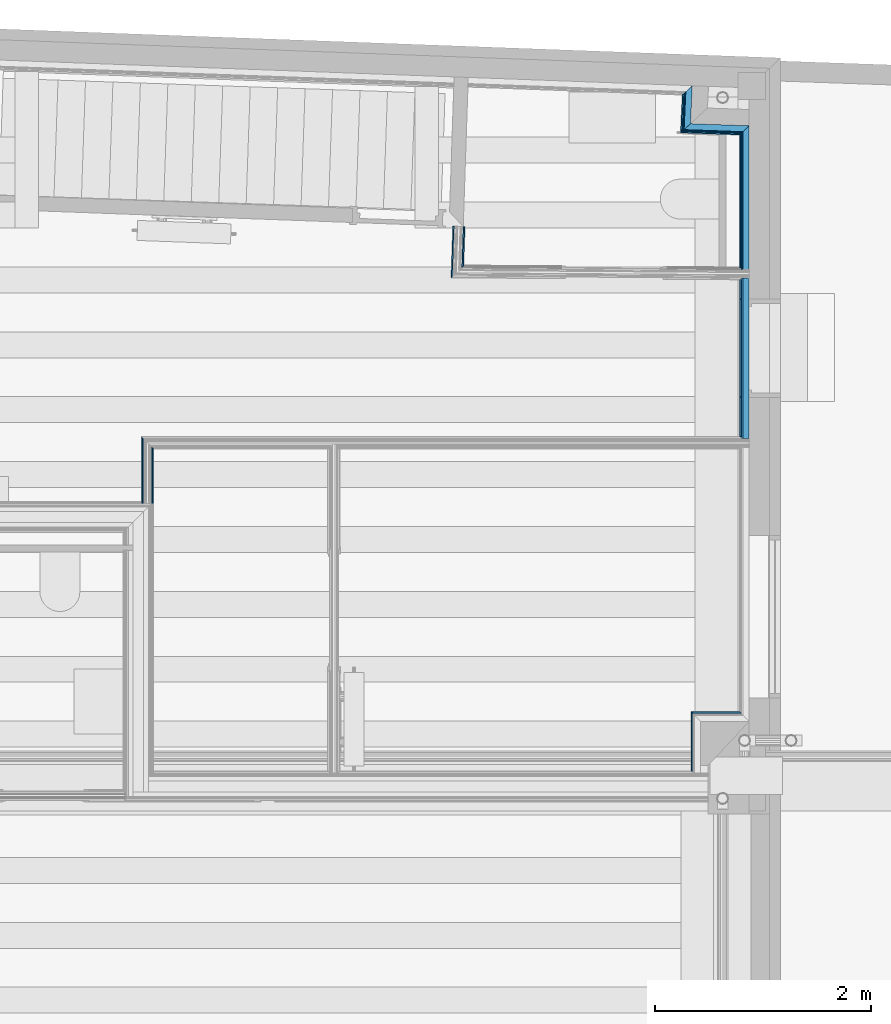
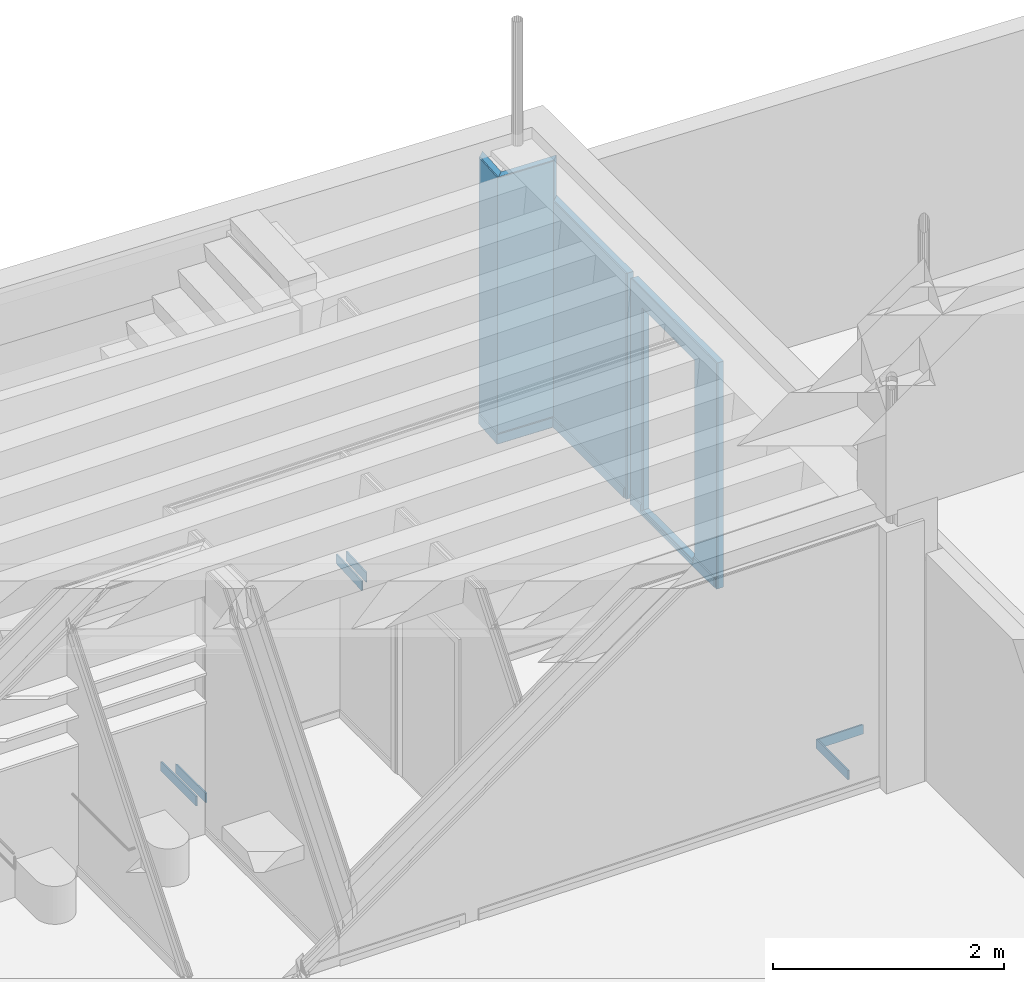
# One storey, part 12 of 108: 18 building element parts, 1 opening, 8 elements without a shape of their own.
"""IFC2X3 building model written with IfcOpenShell, lengths in metres."""

from ifc_helpers import new_model, entity, si_unit, converted_unit, derived_unit, money_unit, direction, frame, frame_2d, origin_with_axes, place, context, subcontext, project, spatial, polyline, rectangle, outline, extrude, material, type_object, element, aggregate, save


model = new_model("IFC2X3")

# Units and contexts
model_context = context("Model", 3, precision=1e-05, world=origin_with_axes(), true_north=direction((0.0, 1.0)))
body_context = subcontext(model_context, "Body", "Model", "MODEL_VIEW", scale=1.0)
ifc_project = project(units=[si_unit("LENGTHUNIT", "METRE"), si_unit("AREAUNIT", "SQUARE_METRE"), si_unit("VOLUMEUNIT", "CUBIC_METRE"), si_unit("ABSORBEDDOSEUNIT", "GRAY"), si_unit("AMOUNTOFSUBSTANCEUNIT", "MOLE"), si_unit("DOSEEQUIVALENTUNIT", "SIEVERT"), si_unit("ELECTRICCAPACITANCEUNIT", "FARAD"), si_unit("ELECTRICCHARGEUNIT", "COULOMB"), si_unit("ELECTRICCONDUCTANCEUNIT", "SIEMENS"), si_unit("ELECTRICCURRENTUNIT", "AMPERE"), si_unit("ELECTRICRESISTANCEUNIT", "OHM"), si_unit("ELECTRICVOLTAGEUNIT", "VOLT"), si_unit("ENERGYUNIT", "JOULE"), si_unit("FORCEUNIT", "NEWTON"), si_unit("FREQUENCYUNIT", "HERTZ"), si_unit("ILLUMINANCEUNIT", "LUX"), si_unit("INDUCTANCEUNIT", "HENRY"), si_unit("LUMINOUSFLUXUNIT", "LUMEN"), si_unit("LUMINOUSINTENSITYUNIT", "CANDELA"), si_unit("MAGNETICFLUXDENSITYUNIT", "TESLA"), si_unit("MAGNETICFLUXUNIT", "WEBER"), si_unit("MASSUNIT", "GRAM"), converted_unit("PLANEANGLEUNIT", "degree", entity("IfcReal", 0.0174532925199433), si_unit("PLANEANGLEUNIT", "RADIAN"), dimensions=[0, 0, 0, 0, 0, 0, 0]), si_unit("POWERUNIT", "WATT"), si_unit("PRESSUREUNIT", "PASCAL"), si_unit("RADIOACTIVITYUNIT", "BECQUEREL"), si_unit("SOLIDANGLEUNIT", "STERADIAN"), si_unit("THERMODYNAMICTEMPERATUREUNIT", "KELVIN"), si_unit("TIMEUNIT", "SECOND"), derived_unit("ACCELERATIONUNIT", [(si_unit("LENGTHUNIT", "METRE"), 1), (si_unit("TIMEUNIT", "SECOND"), -2)]), derived_unit("ANGULARVELOCITYUNIT", [(converted_unit("PLANEANGLEUNIT", "degree", entity("IfcReal", 0.0174532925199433), si_unit("PLANEANGLEUNIT", "RADIAN"), dimensions=[0, 0, 0, 0, 0, 0, 0]), 1), (si_unit("TIMEUNIT", "SECOND"), -1)]), derived_unit("CURVATUREUNIT", [(converted_unit("PLANEANGLEUNIT", "degree", entity("IfcReal", 0.0174532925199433), si_unit("PLANEANGLEUNIT", "RADIAN"), dimensions=[0, 0, 0, 0, 0, 0, 0]), 1), (si_unit("LENGTHUNIT", "METRE"), -1)]), derived_unit("DYNAMICVISCOSITYUNIT", [(si_unit("PRESSUREUNIT", "PASCAL"), 1), (si_unit("TIMEUNIT", "SECOND"), 1)]), derived_unit("HEATFLUXDENSITYUNIT", [(si_unit("POWERUNIT", "WATT"), 1), (si_unit("LENGTHUNIT", "METRE"), -2)]), derived_unit("HEATINGVALUEUNIT", [(si_unit("ENERGYUNIT", "JOULE"), 1), (si_unit("MASSUNIT", "GRAM"), -1)]), derived_unit("INTEGERCOUNTRATEUNIT", [(si_unit("TIMEUNIT", "SECOND"), -1)]), derived_unit("IONCONCENTRATIONUNIT", [(si_unit("MASSUNIT", "GRAM"), 1), (si_unit("VOLUMEUNIT", "CUBIC_METRE"), -1)]), derived_unit("ISOTHERMALMOISTURECAPACITYUNIT", [(si_unit("VOLUMEUNIT", "CUBIC_METRE"), 1), (si_unit("MASSUNIT", "GRAM"), -1)]), derived_unit("KINEMATICVISCOSITYUNIT", [(si_unit("AREAUNIT", "SQUARE_METRE"), 1), (si_unit("TIMEUNIT", "SECOND"), -1)]), derived_unit("LINEARFORCEUNIT", [(si_unit("FORCEUNIT", "NEWTON"), 1), (si_unit("LENGTHUNIT", "METRE"), -1)]), derived_unit("LINEARMOMENTUNIT", [(si_unit("FORCEUNIT", "NEWTON"), 1), (si_unit("LENGTHUNIT", "METRE"), -1)]), derived_unit("LINEARSTIFFNESSUNIT", [(si_unit("FORCEUNIT", "NEWTON"), 1), (si_unit("LENGTHUNIT", "METRE"), -1)]), derived_unit("LINEARVELOCITYUNIT", [(si_unit("LENGTHUNIT", "METRE"), 1), (si_unit("TIMEUNIT", "SECOND"), -1)]), derived_unit("LUMINOUSINTENSITYDISTRIBUTIONUNIT", [(si_unit("LUMINOUSINTENSITYUNIT", "CANDELA"), 1), (si_unit("LUMINOUSFLUXUNIT", "LUMEN"), -1)]), derived_unit("MASSDENSITYUNIT", [(si_unit("MASSUNIT", "GRAM"), 1), (si_unit("VOLUMEUNIT", "CUBIC_METRE"), -1)]), derived_unit("MASSFLOWRATEUNIT", [(si_unit("MASSUNIT", "GRAM"), 1), (si_unit("TIMEUNIT", "SECOND"), -1)]), derived_unit("MASSPERLENGTHUNIT", [(si_unit("MASSUNIT", "GRAM"), 1), (si_unit("LENGTHUNIT", "METRE"), -1)]), derived_unit("MODULUSOFELASTICITYUNIT", [(si_unit("FORCEUNIT", "NEWTON"), 1), (si_unit("AREAUNIT", "SQUARE_METRE"), -1)]), derived_unit("MODULUSOFLINEARSUBGRADEREACTIONUNIT", [(si_unit("FORCEUNIT", "NEWTON"), 1), (si_unit("LENGTHUNIT", "METRE"), -2)]), derived_unit("MODULUSOFROTATIONALSUBGRADEREACTIONUNIT", [(si_unit("FORCEUNIT", "NEWTON"), 1), (si_unit("LENGTHUNIT", "METRE"), 1)]), derived_unit("MODULUSOFSUBGRADEREACTIONUNIT", [(si_unit("FORCEUNIT", "NEWTON"), 1), (si_unit("VOLUMEUNIT", "CUBIC_METRE"), -1)]), derived_unit("MOISTUREDIFFUSIVITYUNIT", [(si_unit("VOLUMEUNIT", "CUBIC_METRE"), 1), (si_unit("TIMEUNIT", "SECOND"), -1)]), derived_unit("MOLECULARWEIGHTUNIT", [(si_unit("MASSUNIT", "GRAM"), 1), (si_unit("AMOUNTOFSUBSTANCEUNIT", "MOLE"), -1)]), derived_unit("PLANARFORCEUNIT", [(si_unit("FORCEUNIT", "NEWTON"), 1), (si_unit("LENGTHUNIT", "METRE"), -2)]), derived_unit("ROTATIONALFREQUENCYUNIT", [(si_unit("TIMEUNIT", "SECOND"), -1)]), derived_unit("ROTATIONALMASSUNIT", [(si_unit("MASSUNIT", "GRAM"), 1), (si_unit("LENGTHUNIT", "METRE"), 2)]), derived_unit("ROTATIONALSTIFFNESSUNIT", [(si_unit("FORCEUNIT", "NEWTON"), 1), (si_unit("LENGTHUNIT", "METRE"), 1), (converted_unit("PLANEANGLEUNIT", "degree", entity("IfcReal", 0.0174532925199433), si_unit("PLANEANGLEUNIT", "RADIAN"), dimensions=[0, 0, 0, 0, 0, 0, 0]), -1)]), derived_unit("SECTIONAREAINTEGRALUNIT", [(si_unit("LENGTHUNIT", "METRE"), 5)]), derived_unit("SECTIONMODULUSUNIT", [(si_unit("LENGTHUNIT", "METRE"), 3)]), derived_unit("SHEARMODULUSUNIT", [(si_unit("FORCEUNIT", "NEWTON"), 1), (si_unit("AREAUNIT", "SQUARE_METRE"), -1)]), derived_unit("SOUNDPOWERUNIT", [(si_unit("ENERGYUNIT", "JOULE"), 1), (si_unit("TIMEUNIT", "SECOND"), -1)]), derived_unit("SPECIFICHEATCAPACITYUNIT", [(si_unit("FORCEUNIT", "NEWTON"), 1), (si_unit("MASSUNIT", "GRAM"), -1), (si_unit("THERMODYNAMICTEMPERATUREUNIT", "KELVIN"), -1)]), derived_unit("TEMPERATUREGRADIENTUNIT", [(si_unit("THERMODYNAMICTEMPERATUREUNIT", "KELVIN"), 1), (si_unit("LENGTHUNIT", "METRE"), -1)]), derived_unit("THERMALADMITTANCEUNIT", [(si_unit("POWERUNIT", "WATT"), 1), (si_unit("AREAUNIT", "SQUARE_METRE"), -1), (si_unit("THERMODYNAMICTEMPERATUREUNIT", "KELVIN"), -1)]), derived_unit("THERMALCONDUCTANCEUNIT", [(si_unit("POWERUNIT", "WATT"), 1), (si_unit("LENGTHUNIT", "METRE"), -1), (si_unit("THERMODYNAMICTEMPERATUREUNIT", "KELVIN"), -1)]), derived_unit("THERMALEXPANSIONCOEFFICIENTUNIT", [(si_unit("THERMODYNAMICTEMPERATUREUNIT", "KELVIN"), -1)]), derived_unit("THERMALRESISTANCEUNIT", [(si_unit("AREAUNIT", "SQUARE_METRE"), 1), (si_unit("POWERUNIT", "WATT"), -1)]), derived_unit("THERMALTRANSMITTANCEUNIT", [(si_unit("POWERUNIT", "WATT"), 1), (si_unit("AREAUNIT", "SQUARE_METRE"), -1), (si_unit("THERMODYNAMICTEMPERATUREUNIT", "KELVIN"), -1)]), derived_unit("TORQUEUNIT", [(si_unit("FORCEUNIT", "NEWTON"), 1), (si_unit("LENGTHUNIT", "METRE"), 1)]), derived_unit("VAPORPERMEABILITYUNIT", [(si_unit("MASSUNIT", "GRAM"), 1), (si_unit("TIMEUNIT", "SECOND"), -1)]), derived_unit("VOLUMETRICFLOWRATEUNIT", [(si_unit("VOLUMEUNIT", "CUBIC_METRE"), 1), (si_unit("TIMEUNIT", "SECOND"), -1)]), derived_unit("WARPINGCONSTANTUNIT", [(si_unit("LENGTHUNIT", "METRE"), 6)]), derived_unit("WARPINGMOMENTUNIT", [(si_unit("FORCEUNIT", "NEWTON"), 1), (si_unit("LENGTHUNIT", "METRE"), 2)]), money_unit("GBP")], contexts=[model_context])

# Site, building, storey
site_placement = place(None, origin_with_axes())
site = spatial("IfcSite", under=ifc_project, at=site_placement, Name="Site", CompositionType="ELEMENT")
building_placement = place(site_placement, origin_with_axes())
building = spatial("IfcBuilding", under=site, at=building_placement, Name="Building01", CompositionType="ELEMENT")
storey_placement = place(building_placement, origin_with_axes())
storey = spatial("IfcBuildingStorey", under=building, at=storey_placement, Name="GF", CompositionType="ELEMENT", Elevation=0.0)

# Wall, building element parts
wall_type_1 = type_object("IfcWallType", Name="SHE_A-Walls_Type05b_Partition_80mm", PredefinedType="NOTDEFINED")
wall_1_placement = place(storey_placement, frame((3.603525, 17.143647, 0.148), z_axis=(0.0, 0.0, 1.0), x_axis=(0.0, 1.0, 0.0)))
wall_1 = element("IfcWall", 1, at=wall_1_placement, inside=storey, type_object=wall_type_1, Name="5B", ObjectType="SHE_A-Walls_Type05b_Partition_80mm")
ifc_material_1 = material(Name="A_BSUK_Walls_Timber")
placement_1 = place(wall_1_placement, origin_with_axes())
building_element_part_1 = element("IfcBuildingElementPart", 2, at=placement_1, material=ifc_material_1, Name="1", context=body_context, shape_type="SweptSolid", body=[
    extrude(outline(polyline([(0.519924, -0.027), (0.0, -0.027), (0.0, -0.042), (0.504924, -0.042), (0.519924, -0.027)])), frame((0.0, 0.0, 0.015), z_axis=(0.0, 0.0, 1.0), x_axis=(1.0, 0.0, 0.0)), (0.0, 0.0, 1.0), 0.1),
])
building_element_part_2 = element("IfcBuildingElementPart", 3, at=placement_1, material=ifc_material_1, Name="7", context=body_context, shape_type="SweptSolid", body=[
    extrude(outline(polyline([(0.614924, 0.068), (0.0, 0.068), (0.0, 0.053), (0.599924, 0.053), (0.614924, 0.068)])), frame((0.0, 0.0, 0.015), z_axis=(0.0, 0.0, 1.0), x_axis=(1.0, 0.0, 0.0)), (0.0, 0.0, 1.0), 0.1),
])
aggregate(wall_1, [building_element_part_1, building_element_part_2])

wall_2_placement = place(storey_placement, frame((6.468779, 19.273593, 0.148), z_axis=(0.0, 0.0, 1.0), x_axis=(0.03365301, 0.99943358, 0.0)))
wall_2 = element("IfcWall", 4, at=wall_2_placement, inside=storey, type_object=wall_type_1, Name="5B", ObjectType="SHE_A-Walls_Type05b_Partition_80mm")
placement_2 = place(wall_2_placement, origin_with_axes())
building_element_part_3 = element("IfcBuildingElementPart", 5, at=placement_2, material=ifc_material_1, Name="1", context=body_context, shape_type="SweptSolid", body=[
    extrude(outline(polyline([(0.430401, -0.027), (0.052747, -0.027), (0.067359, -0.042), (0.430351, -0.042), (0.430401, -0.027)])), frame((0.0, 0.0, 0.015), z_axis=(0.0, 0.0, 1.0), x_axis=(1.0, 0.0, 0.0)), (0.0, 0.0, 1.0), 0.1),
])
building_element_part_4 = element("IfcBuildingElementPart", 6, at=placement_2, material=ifc_material_1, Name="7", context=body_context, shape_type="SweptSolid", body=[
    extrude(outline(polyline([(0.430716, 0.068), (-0.044849, 0.068), (-0.029439, 0.053), (0.430666, 0.053), (0.430716, 0.068)])), frame((0.0, 0.0, 0.015), z_axis=(0.0, 0.0, 1.0), x_axis=(1.0, 0.0, 0.0)), (0.0, 0.0, 1.0), 0.1),
])
aggregate(wall_2, [building_element_part_3, building_element_part_4])

wall_type_2 = type_object("IfcWallType", Name="SHE_A-Walls_Type06c_ExternalWallInsulation_60mm", PredefinedType="NOTDEFINED")
wall_3_placement = place(storey_placement, frame((9.154265, 19.307574, 0.148), z_axis=(0.0, 0.0, 1.0), x_axis=(0.0, 1.0, 0.0)))
wall_3 = element("IfcWall", 7, at=wall_3_placement, inside=storey, type_object=wall_type_2, Name="6C", ObjectType="SHE_A-Walls_Type06c_ExternalWallInsulation_60mm")
ifc_material_2 = material(Name="A_BSUK_Insulation")
placement_3 = place(wall_3_placement, origin_with_axes())
building_element_part_5 = element("IfcBuildingElementPart", 8, at=placement_3, material=ifc_material_2, Name="1", context=body_context, shape_type="SweptSolid", body=[
    extrude(outline(polyline([(1.26997, 0.06), (0.0, 0.06), (0.0, 0.0), (1.327893, 0.0), (1.26997, 0.06)])), origin_with_axes(), (0.0, 0.0, 1.0), 2.387),
])
ifc_material_3 = material(Name="A_BSUK_WallInternal_Finishes_Plasterboard")
building_element_part_6 = element("IfcBuildingElementPart", 9, at=placement_3, material=ifc_material_3, Name="2", context=body_context, shape_type="SweptSolid", body=[
    extrude(outline(polyline([(1.258385, 0.072), (0.0, 0.072), (0.0, 0.059), (1.270935, 0.059), (1.258385, 0.072)])), origin_with_axes(), (0.0, 0.0, 1.0), 2.387),
])
building_element_part_7 = element("IfcBuildingElementPart", 10, at=placement_3, material=ifc_material_1, Name="3", context=body_context, shape_type="SweptSolid", body=[
    extrude(outline(polyline([(1.243904, 0.087), (0.015584, 0.087), (0.015483, 0.072), (1.258385, 0.072), (1.243904, 0.087)])), frame((0.0, 0.0, 0.015), z_axis=(0.0, 0.0, 1.0), x_axis=(1.0, 0.0, 0.0)), (0.0, 0.0, 1.0), 0.1),
])
aggregate(wall_3, [building_element_part_5, building_element_part_6, building_element_part_7])

wall_4_placement = place(storey_placement, frame((9.154265, 20.635466, 0.148), z_axis=(0.0, 0.0, 1.0), x_axis=(-0.99937968, 0.03521735, 0.0)))
wall_4 = element("IfcWall", 11, at=wall_4_placement, inside=storey, type_object=wall_type_2, Name="6C", ObjectType="SHE_A-Walls_Type06c_ExternalWallInsulation_60mm")
placement_4 = place(wall_4_placement, origin_with_axes())
building_element_part_8 = element("IfcBuildingElementPart", 12, at=placement_4, material=ifc_material_2, Name="1", context=body_context, shape_type="SweptSolid", body=[
    extrude(outline(polyline([(0.60338, 0.06), (0.057923, 0.06), (0.0, 0.0), (0.542719, 0.0), (0.60338, 0.06)])), origin_with_axes(), (0.0, 0.0, 1.0), 2.812),
])
building_element_part_9 = element("IfcBuildingElementPart", 13, at=placement_4, material=ifc_material_3, Name="2", context=body_context, shape_type="SweptSolid", body=[
    extrude(outline(polyline([(0.615512, 0.072), (0.069507, 0.072), (0.056958, 0.059), (0.602369, 0.059), (0.615512, 0.072)])), origin_with_axes(), (0.0, 0.0, 1.0), 2.812),
])
building_element_part_10 = element("IfcBuildingElementPart", 14, at=placement_4, material=ifc_material_1, Name="3", context=body_context, shape_type="SweptSolid", body=[
    extrude(outline(polyline([(0.630677, 0.087), (0.083988, 0.087), (0.069507, 0.072), (0.615512, 0.072), (0.630677, 0.087)])), frame((0.0, 0.0, 0.015), z_axis=(0.0, 0.0, 1.0), x_axis=(1.0, 0.0, 0.0)), (0.0, 0.0, 1.0), 0.1),
])
aggregate(wall_4, [building_element_part_8, building_element_part_9, building_element_part_10])

wall_5_placement = place(storey_placement, frame((8.611883, 20.65458, 0.148), z_axis=(0.0, 0.0, 1.0), x_axis=(0.04616624, 0.99893377, 0.0)))
wall_5 = element("IfcWall", 15, at=wall_5_placement, inside=storey, type_object=wall_type_2, Name="6C", ObjectType="SHE_A-Walls_Type06c_ExternalWallInsulation_60mm")
placement_5 = place(wall_5_placement, origin_with_axes())
building_element_part_11 = element("IfcBuildingElementPart", 16, at=placement_5, material=ifc_material_2, Name="1", context=body_context, shape_type="SweptSolid", body=[
    extrude(outline(polyline([(0.290707, 0.06), (-0.060661, 0.06), (0.0, 0.0), (0.351255, 0.0), (0.290707, 0.06)])), origin_with_axes(), (0.0, 0.0, 1.0), 2.812),
])
building_element_part_12 = element("IfcBuildingElementPart", 17, at=placement_5, material=ifc_material_3, Name="2", context=body_context, shape_type="SweptSolid", body=[
    extrude(outline(polyline([(0.278597, 0.072), (-0.072793, 0.072), (-0.05965, 0.059), (0.291716, 0.059), (0.278597, 0.072)])), origin_with_axes(), (0.0, 0.0, 1.0), 2.812),
])
building_element_part_13 = element("IfcBuildingElementPart", 18, at=placement_5, material=ifc_material_1, Name="3", context=body_context, shape_type="SweptSolid", body=[
    extrude(outline(polyline([(0.26346, 0.087), (-0.087959, 0.087), (-0.072793, 0.072), (0.278597, 0.072), (0.26346, 0.087)])), frame((0.0, 0.0, 0.015), z_axis=(0.0, 0.0, 1.0), x_axis=(1.0, 0.0, 0.0)), (0.0, 0.0, 1.0), 0.1),
])
aggregate(wall_5, [building_element_part_11, building_element_part_12, building_element_part_13])

# Wall, building element part
wall_6_placement = place(storey_placement, frame((8.705291, 14.65, 0.148), z_axis=(0.0, 0.0, 1.0), x_axis=(0.0, 1.0, 0.0)))
wall_6 = element("IfcWall", 19, at=wall_6_placement, inside=storey, type_object=wall_type_2, Name="6C", ObjectType="SHE_A-Walls_Type06c_ExternalWallInsulation_60mm")
building_element_part_14_placement = place(wall_6_placement, origin_with_axes())
building_element_part_14 = element("IfcBuildingElementPart", 20, at=building_element_part_14_placement, material=ifc_material_1, Name="3", context=body_context, shape_type="SweptSolid", body=[
    extrude(outline(polyline([(0.564892, 0.087), (0.015, 0.087), (0.015, 0.072), (0.549892, 0.072), (0.564892, 0.087)])), frame((0.0, 0.0, 0.015), z_axis=(0.0, 0.0, 1.0), x_axis=(1.0, 0.0, 0.0)), (0.0, 0.0, 1.0), 0.1),
])
aggregate(wall_6, [building_element_part_14])

wall_7_placement = place(storey_placement, frame((8.705291, 15.127892, 0.148), z_axis=(0.0, 0.0, 1.0), x_axis=(1.0, 0.0, 0.0)))
wall_7 = element("IfcWall", 21, at=wall_7_placement, inside=storey, type_object=wall_type_2, Name="6C", ObjectType="SHE_A-Walls_Type06c_ExternalWallInsulation_60mm")
building_element_part_15_placement = place(wall_7_placement, origin_with_axes())
building_element_part_15 = element("IfcBuildingElementPart", 22, at=building_element_part_15_placement, material=ifc_material_1, Name="3", context=body_context, shape_type="SweptSolid", body=[
    extrude(outline(polyline([(0.361974, 0.087), (-0.087, 0.087), (-0.072, 0.072), (0.376974, 0.072), (0.361974, 0.087)])), frame((0.0, 0.0, 0.015), z_axis=(0.0, 0.0, 1.0), x_axis=(1.0, 0.0, 0.0)), (0.0, 0.0, 1.0), 0.1),
])
aggregate(wall_7, [building_element_part_15])

# Wall, opening, building element parts
wall_8_placement = place(storey_placement, frame((9.154265, 17.743571, 0.148), z_axis=(0.0, 0.0, 1.0), x_axis=(0.0, 1.0, 0.0)))
wall_8 = element("IfcWall", 23, at=wall_8_placement, inside=storey, type_object=wall_type_2, Name="6C", ObjectType="SHE_A-Walls_Type06c_ExternalWallInsulation_60mm")
opening_placement = place(wall_8_placement, frame((0.380537, 0.0, 0.05), z_axis=(0.0, 0.0, 1.0), x_axis=(1.0, 0.0, 0.0)))
element("IfcOpeningElement", 24, at=opening_placement, cuts=wall_8, Name="Opening", ObjectType="Opening", context=body_context, shape_type="SweptSolid", body=[
    extrude(rectangle(XDim=0.909, YDim=2.142, at=frame_2d((-0.4545, 1.071), x_axis=(-1.0, 0.0))), frame((0.0, 0.0, 0.0), z_axis=(0.0, 1.0, 0.0), x_axis=(-1.0, 0.0, 0.0)), (0.0, 0.0, 1.0), 0.087),
])
placement_6 = place(wall_8_placement, origin_with_axes())
building_element_part_16 = element("IfcBuildingElementPart", 25, at=placement_6, material=ifc_material_2, Name="1", context=body_context, shape_type="SweptSolid", body=[
    extrude(rectangle(XDim=1.484001, YDim=0.06, at=frame_2d((0.742, 0.03), x_axis=(1.0, 0.0))), origin_with_axes(), (0.0, 0.0, 1.0), 2.387),
])
building_element_part_17 = element("IfcBuildingElementPart", 26, at=placement_6, material=ifc_material_3, Name="2", context=body_context, shape_type="SweptSolid", body=[
    extrude(rectangle(XDim=1.484001, YDim=0.013, at=frame_2d((0.742, 0.0655), x_axis=(1.0, 0.0))), origin_with_axes(), (0.0, 0.0, 1.0), 2.387),
])
building_element_part_18 = element("IfcBuildingElementPart", 27, at=placement_6, material=ifc_material_1, Name="3", context=body_context, shape_type="SweptSolid", body=[
    extrude(outline(polyline([(1.469584, 0.087), (0.015, 0.087), (0.015, 0.072), (1.469484, 0.072), (1.469584, 0.087)])), frame((0.0, 0.0, 0.015), z_axis=(0.0, 0.0, 1.0), x_axis=(1.0, 0.0, 0.0)), (0.0, 0.0, 1.0), 0.1),
])
aggregate(wall_8, [building_element_part_16, building_element_part_17, building_element_part_18])

save(model, "model.ifc")
